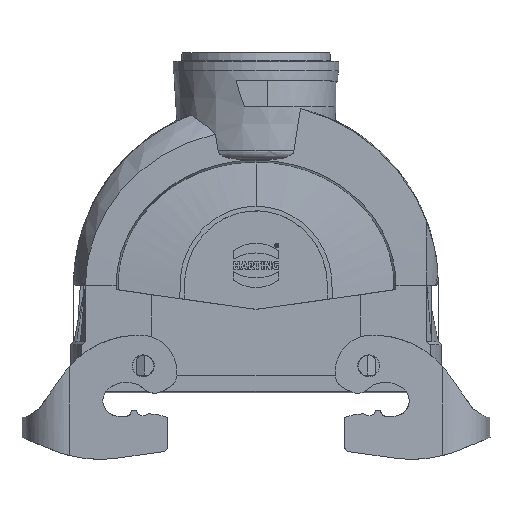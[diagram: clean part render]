
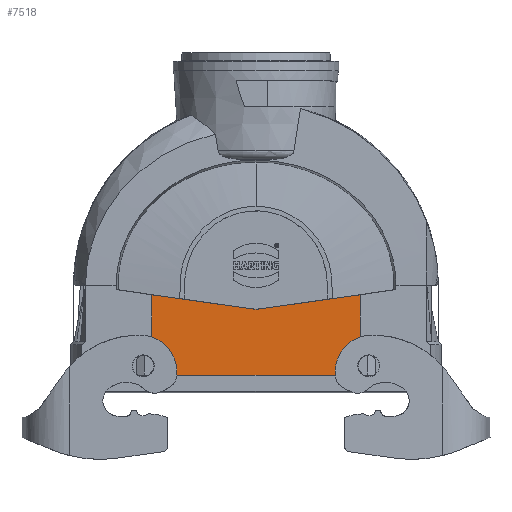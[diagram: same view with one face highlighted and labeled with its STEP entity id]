
A CAD part, front view. The second image highlights one B-rep face of the part: STEP entity #7518.
In plain terms, the highlighted planar face has unit normal (0, -1, 0).
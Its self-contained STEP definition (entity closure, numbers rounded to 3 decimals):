
#4992=LINE('',#22471,#6142);
#5079=LINE('',#22918,#6229);
#5085=LINE('',#22947,#6235);
#5086=LINE('',#22953,#6236);
#5088=LINE('',#22965,#6238);
#5291=LINE('',#27044,#6447);
#5293=LINE('',#27055,#6449);
#6142=VECTOR('',#18956,1.);
#6229=VECTOR('',#19155,1.);
#6235=VECTOR('',#19165,1.);
#6236=VECTOR('',#19172,1.);
#6238=VECTOR('',#19184,1.);
#6447=VECTOR('',#19635,1.);
#6449=VECTOR('',#19639,1.);
#7518=ADVANCED_FACE('',(#8596),#8146,.F.);
#8146=PLANE('',#17963);
#8596=FACE_OUTER_BOUND('',#9262,.T.);
#9262=EDGE_LOOP('',(#10774,#10775,#10776,#10777,#10778,#10779,#10780,#10781,
#10782));
#10774=ORIENTED_EDGE('',*,*,#15134,.T.);
#10775=ORIENTED_EDGE('',*,*,#15582,.T.);
#10776=ORIENTED_EDGE('',*,*,#15128,.T.);
#10777=ORIENTED_EDGE('',*,*,#14959,.T.);
#10778=ORIENTED_EDGE('',*,*,#15115,.T.);
#10779=ORIENTED_EDGE('',*,*,#15583,.T.);
#10780=ORIENTED_EDGE('',*,*,#15125,.T.);
#10781=ORIENTED_EDGE('',*,*,#15558,.T.);
#10782=ORIENTED_EDGE('',*,*,#15555,.T.);
#13698=VERTEX_POINT('',#22470);
#13699=VERTEX_POINT('',#22472);
#13847=VERTEX_POINT('',#22917);
#13856=VERTEX_POINT('',#22946);
#13857=VERTEX_POINT('',#22948);
#13859=VERTEX_POINT('',#22954);
#13863=VERTEX_POINT('',#22964);
#13864=VERTEX_POINT('',#22966);
#14175=VERTEX_POINT('',#27045);
#14959=EDGE_CURVE('',#13699,#13698,#4992,.T.);
#15115=EDGE_CURVE('',#13698,#13847,#5079,.T.);
#15125=EDGE_CURVE('',#13857,#13856,#5085,.T.);
#15128=EDGE_CURVE('',#13859,#13699,#5086,.T.);
#15134=EDGE_CURVE('',#13864,#13863,#5088,.T.);
#15555=EDGE_CURVE('',#14175,#13864,#5291,.T.);
#15558=EDGE_CURVE('',#13856,#14175,#5293,.T.);
#15582=EDGE_CURVE('',#13863,#13859,#16904,.T.);
#15583=EDGE_CURVE('',#13847,#13857,#16905,.T.);
#16904=CIRCLE('',#17961,3.5);
#16905=CIRCLE('',#17962,3.5);
#17961=AXIS2_PLACEMENT_3D('',#28114,#19679,#19680);
#17962=AXIS2_PLACEMENT_3D('',#28115,#19681,#19682);
#17963=AXIS2_PLACEMENT_3D('',#28116,#19683,#19684);
#18956=DIRECTION('',(1.,0.,0.));
#19155=DIRECTION('',(0.,0.,1.));
#19165=DIRECTION('',(0.,0.,1.));
#19172=DIRECTION('',(0.,0.,-1.));
#19184=DIRECTION('',(0.,0.,-1.));
#19635=DIRECTION('',(-0.99,0.,0.139));
#19639=DIRECTION('',(-0.99,0.,-0.139));
#19679=DIRECTION('',(0.,1.,0.));
#19680=DIRECTION('',(-1.,0.,0.));
#19681=DIRECTION('',(0.,1.,0.));
#19682=DIRECTION('',(-1.,0.,0.));
#19683=DIRECTION('',(0.,1.,0.));
#19684=DIRECTION('',(-1.,0.,0.));
#22470=CARTESIAN_POINT('',(34.17,-22.5,-5.7));
#22471=CARTESIAN_POINT('',(-34.17,-22.5,-5.7));
#22472=CARTESIAN_POINT('',(-34.17,-22.5,-5.7));
#22917=CARTESIAN_POINT('',(34.17,-22.5,-4.709));
#22918=CARTESIAN_POINT('',(34.17,-22.5,23.75));
#22946=CARTESIAN_POINT('',(34.17,-22.5,20.689));
#22947=CARTESIAN_POINT('',(34.17,-22.5,23.75));
#22948=CARTESIAN_POINT('',(34.17,-22.5,-0.591));
#22953=CARTESIAN_POINT('',(-34.17,-22.5,23.75));
#22954=CARTESIAN_POINT('',(-34.17,-22.5,-4.709));
#22964=CARTESIAN_POINT('',(-34.17,-22.5,-0.591));
#22965=CARTESIAN_POINT('',(-34.17,-22.5,23.75));
#22966=CARTESIAN_POINT('',(-34.17,-22.5,20.689));
#27044=CARTESIAN_POINT('',(-34.592,-22.5,20.748));
#27045=CARTESIAN_POINT('',(0.,-22.5,15.887));
#27055=CARTESIAN_POINT('',(34.592,-22.5,20.748));
#28114=CARTESIAN_POINT('',(-37.,-22.5,-2.65));
#28115=CARTESIAN_POINT('',(37.,-22.5,-2.65));
#28116=CARTESIAN_POINT('',(-34.17,-22.5,23.75));
